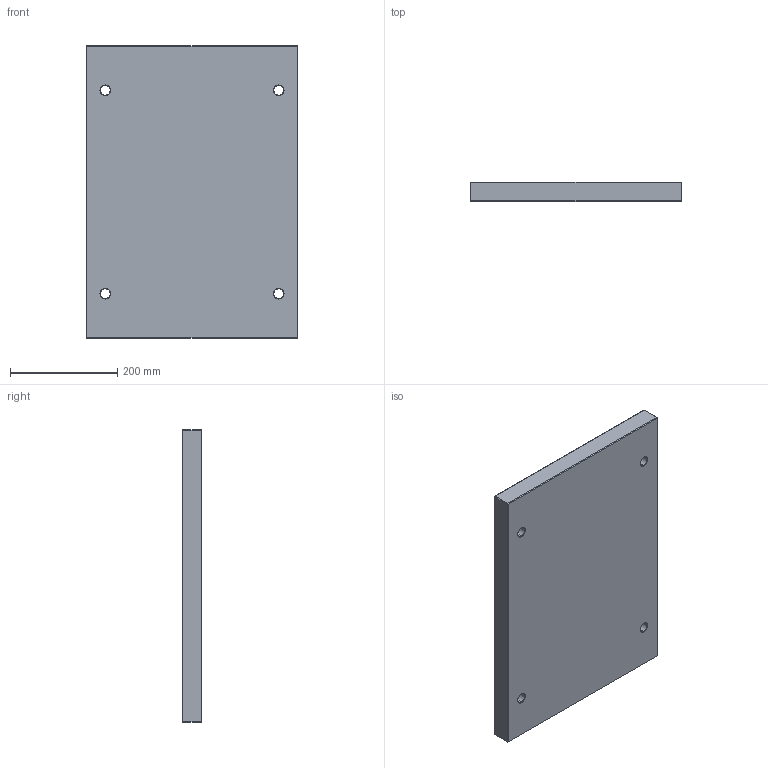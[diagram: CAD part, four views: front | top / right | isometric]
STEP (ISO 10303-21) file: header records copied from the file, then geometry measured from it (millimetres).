
FILE_DESCRIPTION (( 'STEP AP214' ), '1' );
FILE_NAME ('PBAS-396x546x36.STEP', '2020-03-24T15:59:22', ( 'August' ), ( '' ), 'SwSTEP 2.0', 'SolidWorks 2018', '' );
FILE_SCHEMA (( 'AUTOMOTIVE_DESIGN' ));
Length unit declared in the file: millimetre
Products named in the file (1): PBAS-396x546x36
Bounding box: 396 x 36 x 546 mm (x, y, z)
Volume: 7724991.8 mm3; surface area: 505564.7 mm2
Topology: 1 solids, 1 shells, 62 faces, 128 edges, 72 vertices
Faces by surface type: plane 30, cone 16, cylinder 16
Entity records: 1650 total; most frequent: DIRECTION 302, CARTESIAN_POINT 263, ORIENTED_EDGE 256, EDGE_CURVE 128, AXIS2_PLACEMENT_3D 111, VECTOR 80, LINE 80, EDGE_LOOP 74
